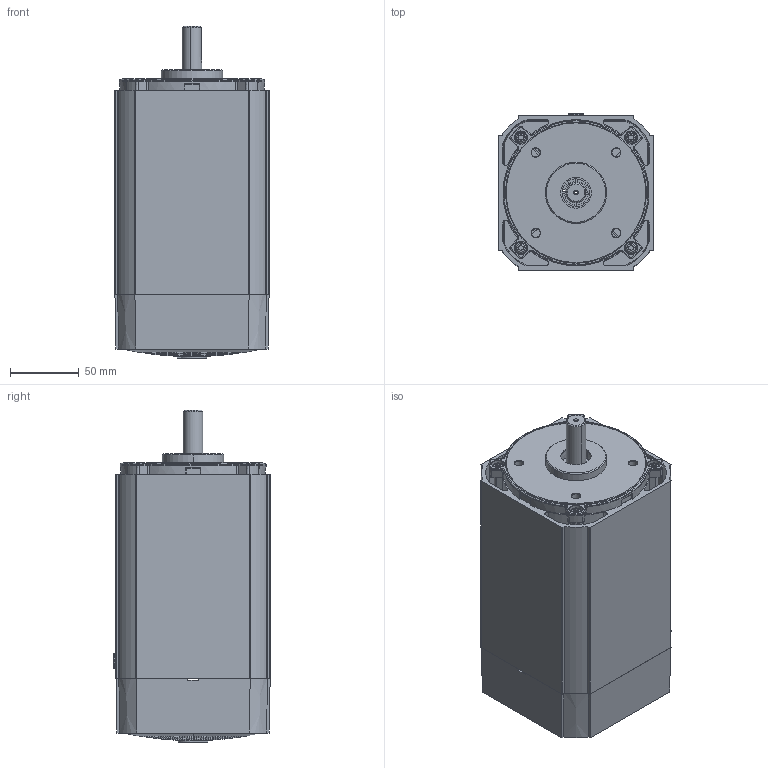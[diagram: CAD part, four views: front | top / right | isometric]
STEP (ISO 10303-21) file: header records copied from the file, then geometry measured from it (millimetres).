
FILE_DESCRIPTION (( 'STEP AP203' ), '1' );
FILE_NAME ('OUTLINE AC10060FC.STEP', '2007-10-30T17:47:54', ( 'eng-rjs2' ), ( 'groschopp' ), 'SwSTEP 2.0', 'SolidWorks 2008', '' );
FILE_SCHEMA (( 'CONFIG_CONTROL_DESIGN' ));
Length unit declared in the file: inch
Products named in the file (1): OUTLINE AC10060FC
Bounding box: 112.27 x 113.86 x 240.75 mm (x, y, z)
Surface area: 217253.1 mm2 (no closed solid volume)
Topology: 0 solids, 31 shells, 940 faces, 2986 edges, 2006 vertices
Faces by surface type: plane 538, cylinder 222, cone 60, bspline 58, torus 52, sphere 10
Entity records: 34977 total; most frequent: CARTESIAN_POINT 8682, DIRECTION 5896, ORIENTED_EDGE 4906, EDGE_CURVE 2986, AXIS2_PLACEMENT_3D 2368, VERTEX_POINT 2006, CIRCLE 1485, VECTOR 1160
